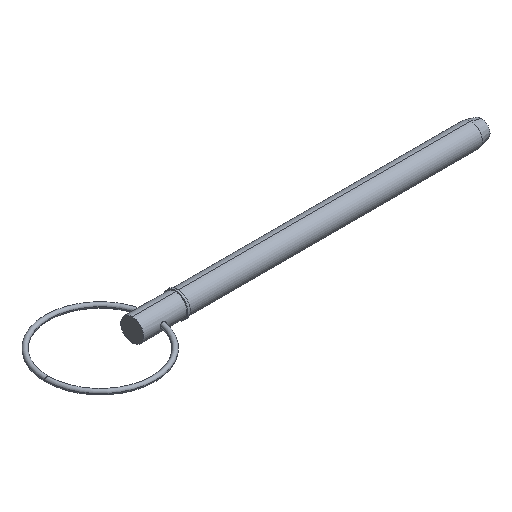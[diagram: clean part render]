
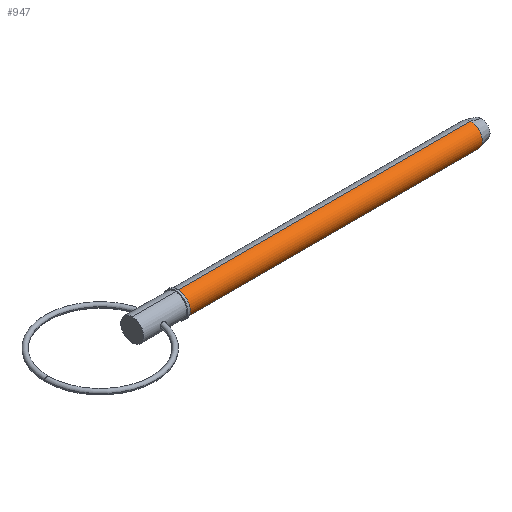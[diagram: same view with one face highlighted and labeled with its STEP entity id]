
A CAD part, isometric view. The second image highlights one B-rep face of the part: STEP entity #947.
In plain terms, the highlighted cylindrical face has radius 4.765 mm (diameter 9.53 mm), a partial arc.
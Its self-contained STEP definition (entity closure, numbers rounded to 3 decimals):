
#1 = VERTEX_POINT ( 'NONE', #422 ) ;
#3 = AXIS2_PLACEMENT_3D ( 'NONE', #966, #976, #496 ) ;
#13 = EDGE_CURVE ( 'NONE', #1, #544, #810, .T. ) ;
#100 = CARTESIAN_POINT ( 'NONE',  ( 141.604, 0., 4.765 ) ) ;
#142 = CIRCLE ( 'NONE', #865, 4.765 ) ;
#148 = CARTESIAN_POINT ( 'NONE',  ( 19.05, 0., 4.765 ) ) ;
#180 = DIRECTION ( 'NONE',  ( 1., 0., 0. ) ) ;
#229 = FACE_OUTER_BOUND ( 'NONE', #878, .T. ) ;
#231 = CIRCLE ( 'NONE', #3, 4.765 ) ;
#232 = AXIS2_PLACEMENT_3D ( 'NONE', #410, #180, #482 ) ;
#247 = DIRECTION ( 'NONE',  ( 1., 0., 0. ) ) ;
#268 = VECTOR ( 'NONE', #247, 1000. ) ;
#272 = VERTEX_POINT ( 'NONE', #100 ) ;
#346 = CARTESIAN_POINT ( 'NONE',  ( 141.604, 0., 0. ) ) ;
#351 = ORIENTED_EDGE ( 'NONE', *, *, #13, .T. ) ;
#383 = CARTESIAN_POINT ( 'NONE',  ( 0., 0., 4.765 ) ) ;
#410 = CARTESIAN_POINT ( 'NONE',  ( 0., 0., 0. ) ) ;
#422 = CARTESIAN_POINT ( 'NONE',  ( 19.05, 0., -4.765 ) ) ;
#472 = EDGE_CURVE ( 'NONE', #822, #272, #780, .T. ) ;
#482 = DIRECTION ( 'NONE',  ( 0., 0., -1. ) ) ;
#496 = DIRECTION ( 'NONE',  ( 0., 0., -1. ) ) ;
#508 = CARTESIAN_POINT ( 'NONE',  ( 141.604, 0., -4.765 ) ) ;
#544 = VERTEX_POINT ( 'NONE', #508 ) ;
#558 = CYLINDRICAL_SURFACE ( 'NONE', #232, 4.765 ) ;
#587 = CARTESIAN_POINT ( 'NONE',  ( 0., 0., -4.765 ) ) ;
#625 = EDGE_CURVE ( 'NONE', #822, #1, #231, .T. ) ;
#626 = ORIENTED_EDGE ( 'NONE', *, *, #472, .F. ) ;
#652 = VECTOR ( 'NONE', #815, 1000. ) ;
#657 = DIRECTION ( 'NONE',  ( 1., 0., 0. ) ) ;
#687 = DIRECTION ( 'NONE',  ( 0., 0., -1. ) ) ;
#701 = EDGE_CURVE ( 'NONE', #272, #544, #142, .T. ) ;
#773 = ORIENTED_EDGE ( 'NONE', *, *, #625, .T. ) ;
#780 = LINE ( 'NONE', #383, #268 ) ;
#810 = LINE ( 'NONE', #587, #652 ) ;
#815 = DIRECTION ( 'NONE',  ( 1., 0., 0. ) ) ;
#822 = VERTEX_POINT ( 'NONE', #148 ) ;
#865 = AXIS2_PLACEMENT_3D ( 'NONE', #346, #657, #687 ) ;
#878 = EDGE_LOOP ( 'NONE', ( #626, #773, #351, #962 ) ) ;
#947 = ADVANCED_FACE ( 'NONE', ( #229 ), #558, .T. ) ;
#962 = ORIENTED_EDGE ( 'NONE', *, *, #701, .F. ) ;
#966 = CARTESIAN_POINT ( 'NONE',  ( 19.05, 0., 0. ) ) ;
#976 = DIRECTION ( 'NONE',  ( 1., 0., 0. ) ) ;
